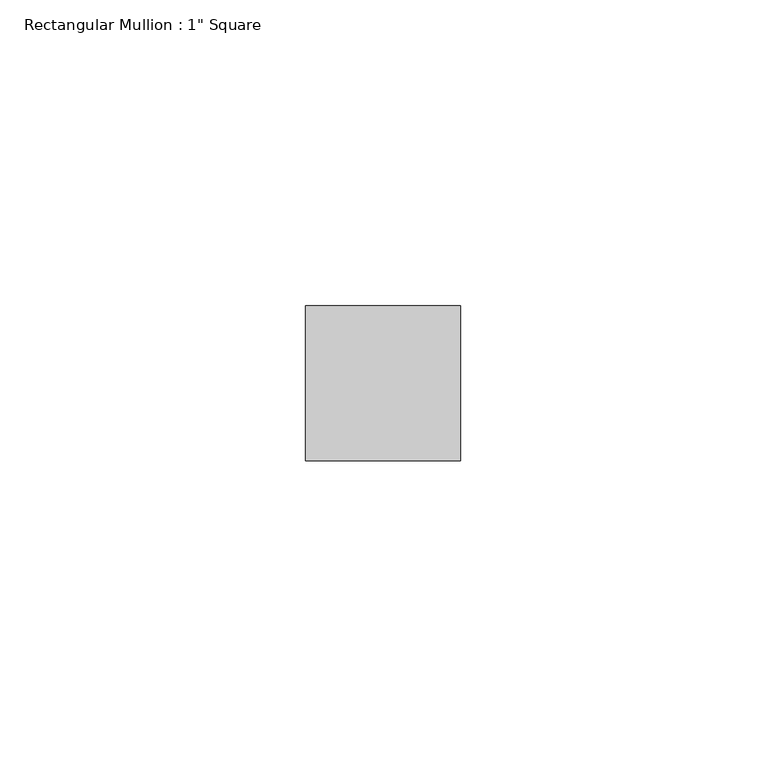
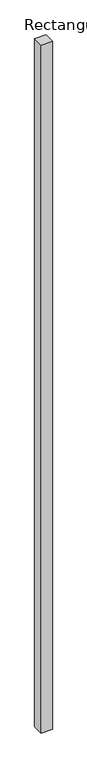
"""IFC4 building model written with IfcOpenShell, lengths in millimetres: member geometry."""

import ifcopenshell
import ifcopenshell.guid

model = None  # the IFC model being written
_history = None  # IfcOwnerHistory: only IFC2X3 demands one
_inside = {}  # id of a spatial element -> (the spatial element, [elements in it])
_under = {}  # id of a project, library or spatial element -> (it, [spatial elements below it])
_declared = {}  # id of a project -> (the project, [libraries it declares])
_typed = {}  # id of a type object -> (the type object, [elements of that type])
_made_of = {}  # id of a material, layer set ... -> (it, [elements and type objects made of it])


def new_model(schema):
    """Start an empty IFC model of exactly this schema.

    Asked for "IFC4X3", IfcOpenShell would pick the latest addendum, in which some entities
    have other attributes; the version numbers below select the first issue.
    IFC2X3 requires an IfcOwnerHistory on every rooted entity: one is made here for all.
    """
    global model, _history
    if schema == "IFC4X3":
        model = ifcopenshell.file(schema_version=(4, 3, 0, 0))
    else:
        model = ifcopenshell.file(schema=schema)
    _inside.clear()
    _under.clear()
    _declared.clear()
    _typed.clear()
    _made_of.clear()
    _history = None
    if model.schema == "IFC2X3":
        org = make("IfcOrganization", Name="unknown")
        user = make(
            "IfcPersonAndOrganization",
            ThePerson=make("IfcPerson", FamilyName="unknown"),
            TheOrganization=org,
        )
        app = make(
            "IfcApplication",
            ApplicationDeveloper=org,
            Version="unknown",
            ApplicationFullName="unknown",
            ApplicationIdentifier="unknown",
        )
        _history = make(
            "IfcOwnerHistory",
            OwningUser=user,
            OwningApplication=app,
            ChangeAction="ADDED",
            CreationDate=0,
        )
    return model


def make(cls, **values):
    """One entity of the class cls with the attributes given. An attribute that is None is left unset."""
    return model.create_entity(
        cls, **{name: value for name, value in values.items() if value is not None}
    )


def rooted(cls, **values):
    """An entity with a GlobalId (a new one), such as an element, a storey or a relation."""
    return make(cls, GlobalId=ifcopenshell.guid.new(), OwnerHistory=_history, **values)


def si_unit(unit_type, name, prefix=None):
    """IfcSIUnit, for example si_unit("LENGTHUNIT", "METRE", prefix="MILLI")."""
    return make("IfcSIUnit", UnitType=unit_type, Prefix=prefix, Name=name)


def assignment(units):
    """IfcUnitAssignment: the units of a project."""
    return None if units is None else make("IfcUnitAssignment", Units=units)


def point(xyz):
    """IfcCartesianPoint."""
    return None if xyz is None else make("IfcCartesianPoint", Coordinates=xyz)


def direction(xyz):
    """IfcDirection."""
    return None if xyz is None else make("IfcDirection", DirectionRatios=xyz)


def frame(location, z_axis=None, x_axis=None):
    """IfcAxis2Placement3D, a coordinate frame: its origin and axes. An axis left out is left unset."""
    return make(
        "IfcAxis2Placement3D",
        Location=point(location),
        Axis=direction(z_axis),
        RefDirection=direction(x_axis),
    )


def origin():
    """The frame at (0, 0, 0) with its axes left unset."""
    return frame((0.0, 0.0, 0.0))


def place(relative_to, where):
    """IfcLocalPlacement: puts the frame where relative to a parent placement (None: the world)."""
    return make(
        "IfcLocalPlacement", PlacementRelTo=relative_to, RelativePlacement=where
    )


def context(
    kind, dimensions, precision=None, world=None, true_north=None, identifier=None
):
    """IfcGeometricRepresentationContext, for example the 3D "Model" context."""
    return make(
        "IfcGeometricRepresentationContext",
        ContextIdentifier=identifier,
        ContextType=kind,
        CoordinateSpaceDimension=dimensions,
        Precision=precision,
        WorldCoordinateSystem=world,
        TrueNorth=true_north,
    )


def project(units=None, contexts=None):
    """IfcProject with its units and contexts."""
    return rooted(
        "IfcProject",
        Name="project",
        RepresentationContexts=contexts,
        UnitsInContext=assignment(units),
    )


def spatial(cls, under=None, at=None, **own):
    """A site, building, storey or space (cls), placed at a placement, below another one or the project."""
    s = rooted(cls, ObjectPlacement=at, **own)
    if under is not None:
        _under.setdefault(under.id(), (under, []))[1].append(s)
    return s


def polyline(points):
    """IfcPolyline through the points."""
    return make("IfcPolyline", Points=[point(p) for p in points])


def outline(outer, holes=None, kind="AREA"):
    """IfcArbitraryClosedProfileDef: a profile drawn as a closed curve; with holes, ...WithVoids."""
    if holes is None:
        return make("IfcArbitraryClosedProfileDef", ProfileType=kind, OuterCurve=outer)
    return make(
        "IfcArbitraryProfileDefWithVoids",
        ProfileType=kind,
        OuterCurve=outer,
        InnerCurves=holes,
    )


def extrude(swept, where, along, depth):
    """IfcExtrudedAreaSolid: the profile swept, set in the frame where, extruded along a direction by depth."""
    return make(
        "IfcExtrudedAreaSolid",
        SweptArea=swept,
        Position=where,
        ExtrudedDirection=direction(along),
        Depth=depth,
    )


def shape(context_of_items, identifier, shape_type, items):
    """IfcShapeRepresentation: the items that make up one representation, for example the "Body"."""
    return make(
        "IfcShapeRepresentation",
        ContextOfItems=context_of_items,
        RepresentationIdentifier=identifier,
        RepresentationType=shape_type,
        Items=items,
    )


def source(mapping_origin, context_of_items, identifier, shape_type, items):
    """IfcRepresentationMap: a shape defined once, which mapped items show again and again."""
    return make(
        "IfcRepresentationMap",
        MappingOrigin=mapping_origin,
        MappedRepresentation=shape(context_of_items, identifier, shape_type, items),
    )


def transform(
    local_origin,
    x_axis=None,
    y_axis=None,
    z_axis=None,
    scale=None,
    scale2=None,
    scale3=None,
    uniform=True,
):
    """IfcCartesianTransformationOperator3D, or its non-uniform kind. x_axis, y_axis, z_axis: its Axis1, 2, 3."""
    if uniform:
        return make(
            "IfcCartesianTransformationOperator3D",
            Axis1=direction(x_axis),
            Axis2=direction(y_axis),
            LocalOrigin=point(local_origin),
            Scale=scale,
            Axis3=direction(z_axis),
        )
    return make(
        "IfcCartesianTransformationOperator3DnonUniform",
        Axis1=direction(x_axis),
        Axis2=direction(y_axis),
        LocalOrigin=point(local_origin),
        Scale=scale,
        Axis3=direction(z_axis),
        Scale2=scale2,
        Scale3=scale3,
    )


def mapped(mapping_source, mapping_target):
    """IfcMappedItem: shows the shape of a source again, moved by a transform."""
    return make(
        "IfcMappedItem", MappingSource=mapping_source, MappingTarget=mapping_target
    )


def made_of(thing, what):
    """Note that an element or type object is made of a material, layer set ...; save() writes the relation."""
    if what is not None:
        _made_of.setdefault(what.id(), (what, []))[1].append(thing)
    return thing


def element(
    cls,
    number,
    at=None,
    inside=None,
    cuts=None,
    type_object=None,
    material=None,
    context=None,
    identifier="Body",
    shape_type=None,
    held_by="IfcProductDefinitionShape",
    body=None,
    shapes=None,
    **own,
):
    """One element of the class cls, such as IfcWall. Its Tag is "e" and its number.

    at: its placement. inside: the storey or other place that contains it. cuts: it is an
    opening in that element (IfcRelVoidsElement). A single representation is given by context,
    identifier, shape_type and body (its items); several are given by shapes. held_by: the class
    of the entity that holds the representations. save() writes the other relations.
    """
    e = rooted(cls, Tag="e%d" % number, ObjectPlacement=at, **own)
    if body is not None:
        shapes = [shape(context, identifier, shape_type, body)]
    if shapes is not None:
        e.Representation = make(held_by, Representations=shapes)
    if inside is not None:
        _inside.setdefault(inside.id(), (inside, []))[1].append(e)
    if cuts is not None:
        rooted(
            "IfcRelVoidsElement", RelatingBuildingElement=cuts, RelatedOpeningElement=e
        )
    if type_object is not None:
        _typed.setdefault(type_object.id(), (type_object, []))[1].append(e)
    return made_of(e, material)


def aggregate(whole, parts):
    """IfcRelAggregates: a whole, such as a stair, and the parts it consists of."""
    return rooted("IfcRelAggregates", RelatingObject=whole, RelatedObjects=parts)


def save(model, path):
    """Write the relations noted so far, then the file.

    IfcRelAggregates (storeys below a building ...), IfcRelContainedInSpatialStructure (elements
    in a storey), IfcRelDefinesByType, IfcRelAssociatesMaterial and IfcRelDeclares: one each for
    every whole, place, type object, material and project.
    """
    for whole, parts in _under.values():
        aggregate(whole, parts)
    for where, things in _inside.values():
        rooted(
            "IfcRelContainedInSpatialStructure",
            RelatedElements=things,
            RelatingStructure=where,
        )
    for kind, things in _typed.values():
        rooted("IfcRelDefinesByType", RelatedObjects=things, RelatingType=kind)
    for what, things in _made_of.values():
        rooted("IfcRelAssociatesMaterial", RelatedObjects=things, RelatingMaterial=what)
    for by, libraries in _declared.values():
        rooted("IfcRelDeclares", RelatingContext=by, RelatedDefinitions=libraries)
    model.write(path)


def member_68b33a8a(model_context):
    return source(origin(), model_context, "Body", "SweptSolid", [
        extrude(outline(polyline([(12.7, 12.7), (12.7, -12.7), (-12.7, -12.7), (-12.7, 12.7), (12.7, 12.7)])), frame((0.0, 0.0, -1654.6604425), z_axis=(0.0, 0.0, 1.0), x_axis=(1.0, 0.0, 0.0)), (0.0, 0.0, 1.0), 1654.6604425),
    ])


if __name__ == "__main__":
    model = new_model("IFC4")
    model_context = context("Model", 3, world=origin())
    ifc_project = project(units=[si_unit("LENGTHUNIT", "METRE", prefix="MILLI")], contexts=[model_context])
    site = spatial("IfcSite", under=ifc_project)
    building = spatial("IfcBuilding", under=site)
    placement = place(None, origin())
    member_shape = member_68b33a8a(model_context)
    element("IfcMember", 1, ObjectType="Rectangular Mullion : 1\" Square", at=placement, inside=building, context=model_context, shape_type="MappedRepresentation", body=[
        mapped(member_shape, transform((0.0, 0.0, 0.0), x_axis=(1.0, 0.0, 0.0), y_axis=(0.0, 1.0, 0.0), z_axis=(0.0, 0.0, 1.0))),
    ])
    save(model, "model.ifc")
